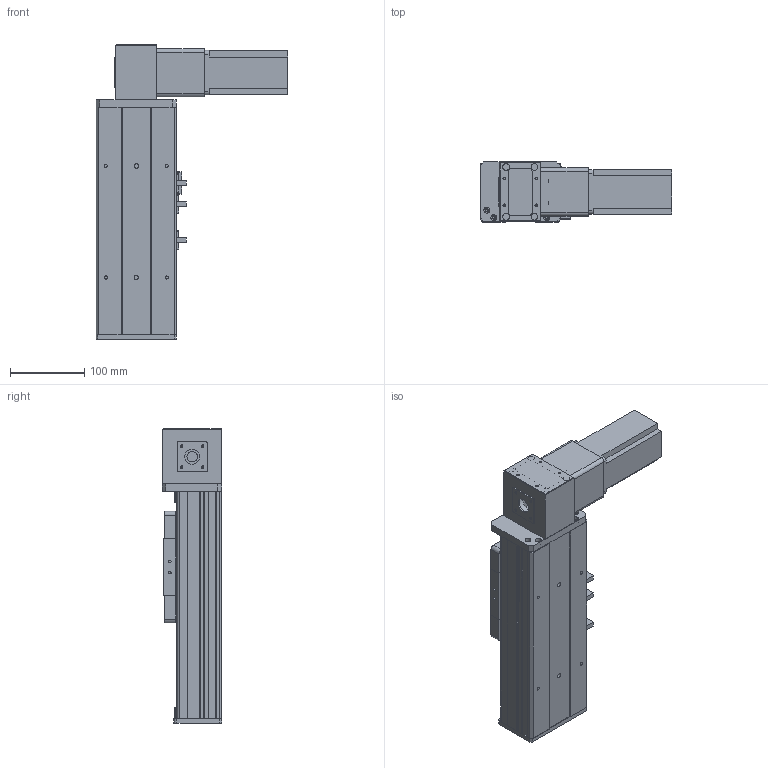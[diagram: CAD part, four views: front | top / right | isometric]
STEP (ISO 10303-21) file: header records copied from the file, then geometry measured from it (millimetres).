
FILE_DESCRIPTION (( 'STEP AP203' ), '1' );
FILE_NAME ('Y10CB-D90-S50-BD-P400W.STEP', '2020-02-17T02:15:28', ( '微软用户' ), ( '微软中国' ), 'SwSTEP 2.0', 'SolidWorks 2017', '' );
FILE_SCHEMA (( 'CONFIG_CONTROL_DESIGN' ));
Length unit declared in the file: millimetre
Products named in the file (16): 10CB-耜裔; Y10B-々湍喘謫眊楊擘啣--; Y135C-陔俋离換覜結え-; san松下电机400不带刹车----; Y100-135俋离換覜ん--; 0B-源倛裔啣; Y10B--々湍喘謫眊--666; 0B-埴倛裔啣; 0B-薊粣ん眊; 10CB-詩湍-; Y10CB-D90-S50-BD-P400W; Y10CB- 掛极耜裔啣-毀---; Y10C---詩湍揤啣; 0CB-雄赽釱---; 10CB9-掛极; 0Cb-俋欶---
Assembly tree (19 placements, depth 2):
  Y10CB-D90-S50-BD-P400W
    0CB-雄赽釱---
    0Cb-俋欶---
    Y10B-々湍喘謫眊楊擘啣--
    san松下电机400不带刹车----
    0B-源倛裔啣
    0B-埴倛裔啣
    10CB-詩湍-
    Y10CB- 掛极耜裔啣-毀---  x2
    Y10C---詩湍揤啣  x2
    10CB9-掛极
    10CB-耜裔
    Y135C-陔俋离換覜結え-
    Y100-135俋离換覜ん--  x3
    Y10B--々湍喘謫眊--666
    0B-薊粣ん眊
Bounding box: 258 x 80.5 x 396 mm (x, y, z)
Volume: 1478581.4 mm3; surface area: 531425.9 mm2
Topology: 19 solids, 19 shells, 840 faces, 2182 edges, 1436 vertices
Faces by surface type: plane 426, cylinder 390, cone 24
Entity records: 25069 total; most frequent: CARTESIAN_POINT 4164, DIRECTION 4117, ORIENTED_EDGE 3834, EDGE_CURVE 1917, AXIS2_PLACEMENT_3D 1479, VERTEX_POINT 1262, VECTOR 1159, LINE 1159
